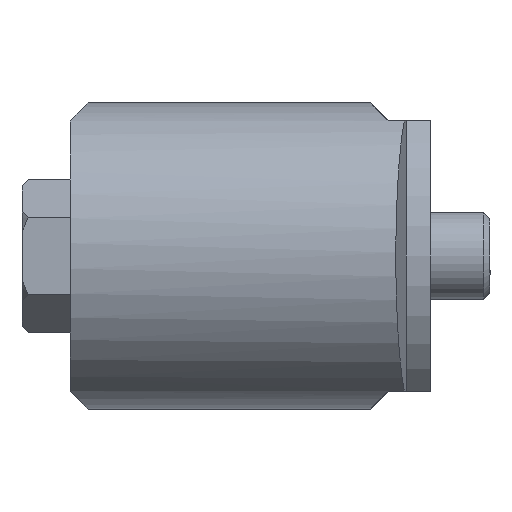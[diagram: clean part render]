
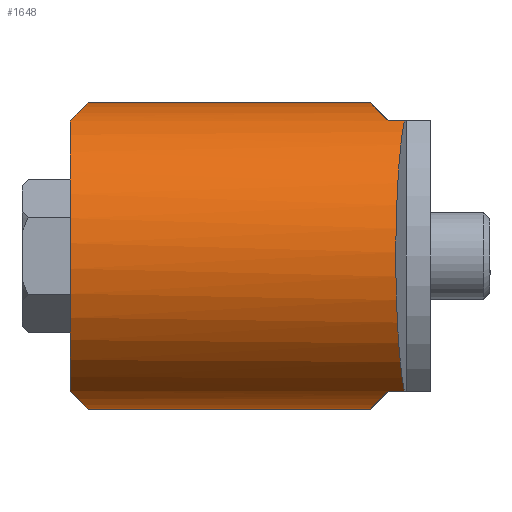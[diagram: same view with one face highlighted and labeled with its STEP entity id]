
A CAD part, left-side view. The second image highlights one B-rep face of the part: STEP entity #1648.
In plain terms, the highlighted cylindrical face has radius 12.75 mm (diameter 25.5 mm), a partial arc.
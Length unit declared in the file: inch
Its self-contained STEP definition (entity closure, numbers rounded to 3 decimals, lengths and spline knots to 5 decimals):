
#55=ELLIPSE('',#1779,0.70989,0.50197);
#56=ELLIPSE('',#1782,0.70989,0.50197);
#57=ELLIPSE('',#1785,0.70989,0.50197);
#58=ELLIPSE('',#1787,0.70989,0.50197);
#59=ELLIPSE('',#1791,0.50473,0.50197);
#94=LINE('',#2542,#186);
#107=LINE('',#2572,#199);
#116=LINE('',#2597,#208);
#117=LINE('',#2599,#209);
#186=VECTOR('',#2036,0.3937);
#199=VECTOR('',#2055,0.3937);
#208=VECTOR('',#2082,0.3937);
#209=VECTOR('',#2085,0.3937);
#275=CYLINDRICAL_SURFACE('',#1792,0.50197);
#317=FACE_OUTER_BOUND('',#414,.T.);
#414=EDGE_LOOP('',(#1102,#1103,#1104,#1105,#1106,#1107,#1108,#1109,#1110,
#1111));
#528=CIRCLE('',#1793,0.50197);
#639=VERTEX_POINT('',#2532);
#640=VERTEX_POINT('',#2533);
#643=VERTEX_POINT('',#2541);
#648=VERTEX_POINT('',#2553);
#649=VERTEX_POINT('',#2554);
#656=VERTEX_POINT('',#2569);
#657=VERTEX_POINT('',#2571);
#659=VERTEX_POINT('',#2577);
#661=VERTEX_POINT('',#2583);
#662=VERTEX_POINT('',#2584);
#808=EDGE_CURVE('',#639,#640,#55,.T.);
#812=EDGE_CURVE('',#640,#643,#94,.T.);
#818=EDGE_CURVE('',#648,#649,#56,.T.);
#826=EDGE_CURVE('',#657,#656,#107,.T.);
#829=EDGE_CURVE('',#656,#659,#57,.T.);
#832=EDGE_CURVE('',#661,#662,#58,.T.);
#838=EDGE_CURVE('',#643,#657,#59,.T.);
#839=EDGE_CURVE('',#659,#661,#116,.T.);
#840=EDGE_CURVE('',#648,#662,#528,.T.);
#841=EDGE_CURVE('',#639,#649,#117,.T.);
#1102=ORIENTED_EDGE('',*,*,#808,.T.);
#1103=ORIENTED_EDGE('',*,*,#812,.T.);
#1104=ORIENTED_EDGE('',*,*,#838,.T.);
#1105=ORIENTED_EDGE('',*,*,#826,.T.);
#1106=ORIENTED_EDGE('',*,*,#829,.T.);
#1107=ORIENTED_EDGE('',*,*,#839,.T.);
#1108=ORIENTED_EDGE('',*,*,#832,.T.);
#1109=ORIENTED_EDGE('',*,*,#840,.F.);
#1110=ORIENTED_EDGE('',*,*,#818,.T.);
#1111=ORIENTED_EDGE('',*,*,#841,.F.);
#1648=ADVANCED_FACE('',(#317),#275,.T.);
#1779=AXIS2_PLACEMENT_3D('',#2534,#2029,#2030);
#1782=AXIS2_PLACEMENT_3D('',#2555,#2044,#2045);
#1785=AXIS2_PLACEMENT_3D('',#2578,#2060,#2061);
#1787=AXIS2_PLACEMENT_3D('',#2585,#2066,#2067);
#1791=AXIS2_PLACEMENT_3D('',#2595,#2078,#2079);
#1792=AXIS2_PLACEMENT_3D('',#2596,#2080,#2081);
#1793=AXIS2_PLACEMENT_3D('',#2598,#2083,#2084);
#2029=DIRECTION('center_axis',(0.,0.707,0.707));
#2030=DIRECTION('ref_axis',(0.,-0.707,0.707));
#2036=DIRECTION('',(0.,-1.,0.));
#2044=DIRECTION('center_axis',(0.,-0.707,0.707));
#2045=DIRECTION('ref_axis',(0.,0.707,0.707));
#2055=DIRECTION('',(0.,1.,0.));
#2060=DIRECTION('center_axis',(0.,0.707,-0.707));
#2061=DIRECTION('ref_axis',(0.,0.707,0.707));
#2066=DIRECTION('center_axis',(0.,-0.707,-0.707));
#2067=DIRECTION('ref_axis',(0.,-0.707,0.707));
#2078=DIRECTION('center_axis',(0.105,0.995,0.));
#2079=DIRECTION('ref_axis',(-0.995,0.105,0.));
#2080=DIRECTION('center_axis',(0.,-1.,0.));
#2081=DIRECTION('ref_axis',(0.,0.,1.));
#2082=DIRECTION('',(0.,1.,0.));
#2083=DIRECTION('center_axis',(0.,1.,0.));
#2084=DIRECTION('ref_axis',(0.,0.,1.));
#2085=DIRECTION('',(0.,1.,0.));
#2532=CARTESIAN_POINT('',(-1.90163,-0.02817,-1.64506));
#2533=CARTESIAN_POINT('',(-2.13785,-0.08722,-1.58601));
#2534=CARTESIAN_POINT('Origin',(-1.90163,-0.53014,-1.14309));
#2541=CARTESIAN_POINT('',(-2.13785,-0.14069,-1.58601));
#2542=CARTESIAN_POINT('',(-2.13785,0.95608,-1.58601));
#2553=CARTESIAN_POINT('',(-2.13785,0.95608,-1.58601));
#2554=CARTESIAN_POINT('',(-1.90163,0.89703,-1.64506));
#2555=CARTESIAN_POINT('Origin',(-1.90163,1.399,-1.14309));
#2569=CARTESIAN_POINT('',(-2.13785,-0.08722,-0.70018));
#2571=CARTESIAN_POINT('',(-2.13785,-0.14069,-0.70018));
#2572=CARTESIAN_POINT('',(-2.13785,0.95608,-0.70018));
#2577=CARTESIAN_POINT('',(-1.90163,-0.02817,-0.64112));
#2578=CARTESIAN_POINT('Origin',(-1.90163,-0.53014,-1.14309));
#2583=CARTESIAN_POINT('',(-1.90163,0.89703,-0.64112));
#2584=CARTESIAN_POINT('',(-2.13785,0.95608,-0.70018));
#2585=CARTESIAN_POINT('Origin',(-1.90163,1.399,-1.14309));
#2595=CARTESIAN_POINT('Origin',(-1.90163,-0.16552,-1.14309));
#2596=CARTESIAN_POINT('Origin',(-1.90163,0.95608,-1.14309));
#2597=CARTESIAN_POINT('',(-1.90163,0.95608,-0.64112));
#2598=CARTESIAN_POINT('Origin',(-1.90163,0.95608,-1.14309));
#2599=CARTESIAN_POINT('',(-1.90163,0.95608,-1.64506));
